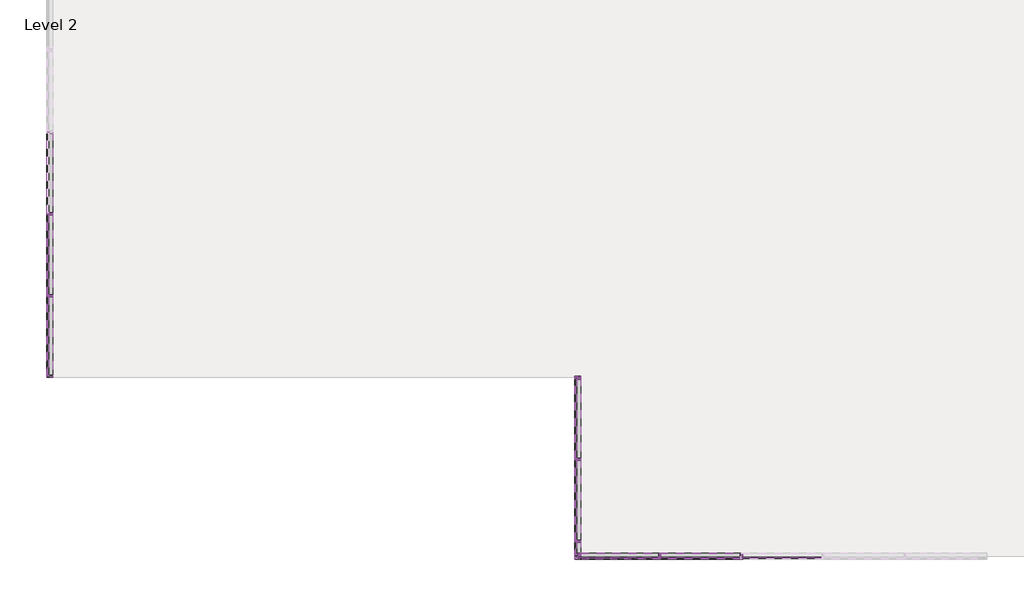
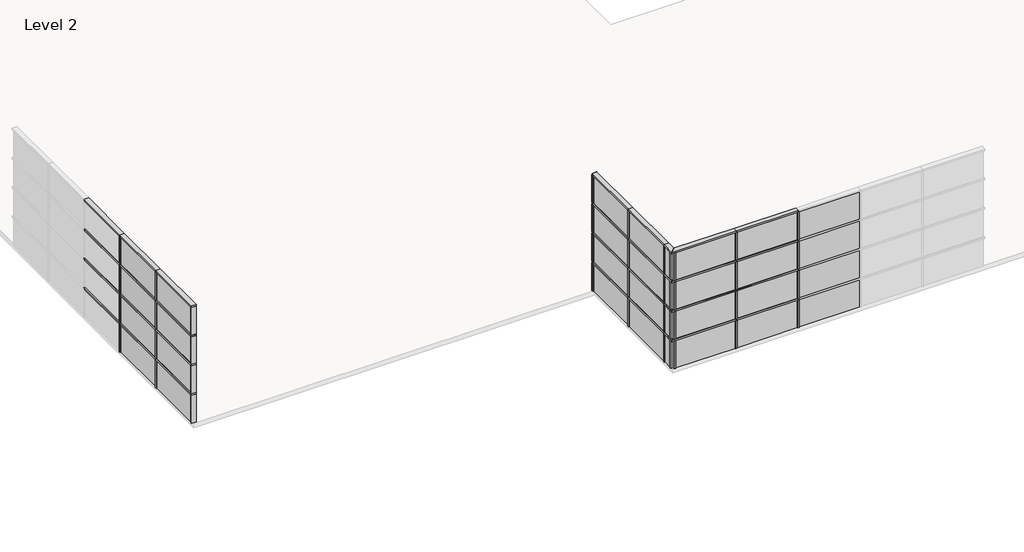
# One storey, part 1 of 6: 80 members, 32 plates.
"""IFC4 building model written with IfcOpenShell, lengths in millimetres."""

from ifc_helpers import new_model, si_unit, origin, place, context, project, spatial, transform, mapped, element, save
from components import rectangular_mullion_50_x_150mm_a053b0ca, rectangular_mullion_50_x_150mm_3a148f0f, rectangular_mullion_50_x_150mm_12a430f9, rectangular_mullion_50_x_150mm_e050193c, rectangular_mullion_50_x_150mm_cc09da6b, rectangular_mullion_50_x_150mm_947845bb, rectangular_mullion_50_x_150mm_b8ab5643, system_panel_glazed_751a585c, system_panel_glazed_08de6f5f, system_panel_glazed_9a47c754, system_panel_glazed_4177c645

model = new_model("IFC4")

# Units and contexts
model_context = context("Model", 3, world=origin())
ifc_project = project(units=[si_unit("LENGTHUNIT", "METRE", prefix="MILLI")], contexts=[model_context])

# Site, building, storey
site = spatial("IfcSite", under=ifc_project)
building = spatial("IfcBuilding", under=site)
storey = spatial("IfcBuildingStorey", under=building, Name="Level 2", Elevation=4000.0)

# Members
placement = place(None, origin())
rectangular_mullion_50_x_150mm_shape = rectangular_mullion_50_x_150mm_a053b0ca(model_context)
element("IfcMember", 1, ObjectType="Rectangular Mullion : 50 x 150mm", at=placement, inside=storey, context=model_context, shape_type="MappedRepresentation", body=[
    mapped(rectangular_mullion_50_x_150mm_shape, transform((-3587.173406, -21988.7417365, 6025.0), x_axis=(1.0, 0.0, 0.0), y_axis=(0.0, -1.0, 0.0), z_axis=(0.0, 0.0, -0.9999999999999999))),
])
element("IfcMember", 2, ObjectType="Rectangular Mullion : 50 x 150mm", at=placement, inside=storey, context=model_context, shape_type="MappedRepresentation", body=[
    mapped(rectangular_mullion_50_x_150mm_shape, transform((-3587.173406, -21988.7417365, 7025.0), x_axis=(1.0, 0.0, 0.0), y_axis=(0.0, -1.0, 0.0), z_axis=(0.0, 0.0, -1.0))),
])
element("IfcMember", 3, ObjectType="Rectangular Mullion : 50 x 150mm", at=placement, inside=storey, context=model_context, shape_type="MappedRepresentation", body=[
    mapped(rectangular_mullion_50_x_150mm_shape, transform((-1587.173406, -21988.7417365, 4025.0), x_axis=(1.0, 0.0, 0.0), y_axis=(0.0, -1.0, 0.0), z_axis=(0.0, 0.0, -1.0))),
])
element("IfcMember", 4, ObjectType="Rectangular Mullion : 50 x 150mm", at=placement, inside=storey, context=model_context, shape_type="MappedRepresentation", body=[
    mapped(rectangular_mullion_50_x_150mm_shape, transform((-1587.173406, -21988.7417365, 5025.0), x_axis=(1.0, 0.0, 0.0), y_axis=(0.0, -1.0, 0.0), z_axis=(0.0, 0.0, -0.9999999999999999))),
])
element("IfcMember", 5, ObjectType="Rectangular Mullion : 50 x 150mm", at=placement, inside=storey, context=model_context, shape_type="MappedRepresentation", body=[
    mapped(rectangular_mullion_50_x_150mm_shape, transform((-1587.173406, -21988.7417365, 6025.0), x_axis=(1.0, 0.0, 0.0), y_axis=(0.0, -1.0, 0.0), z_axis=(0.0, 0.0, -0.9999999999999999))),
])
element("IfcMember", 6, ObjectType="Rectangular Mullion : 50 x 150mm", at=placement, inside=storey, context=model_context, shape_type="MappedRepresentation", body=[
    mapped(rectangular_mullion_50_x_150mm_shape, transform((-1587.173406, -21988.7417365, 7025.0), x_axis=(1.0, 0.0, 0.0), y_axis=(0.0, -1.0, 0.0), z_axis=(0.0, 0.0, -1.0))),
])
element("IfcMember", 7, ObjectType="Rectangular Mullion : 50 x 150mm", at=placement, inside=storey, context=model_context, shape_type="MappedRepresentation", body=[
    mapped(rectangular_mullion_50_x_150mm_shape, transform((-3587.173406, -21988.7417365, 4025.0), x_axis=(1.0, 0.0, 0.0), y_axis=(0.0, -1.0, 0.0), z_axis=(0.0, 0.0, -1.0))),
])
element("IfcMember", 8, ObjectType="Rectangular Mullion : 50 x 150mm", at=placement, inside=storey, context=model_context, shape_type="MappedRepresentation", body=[
    mapped(rectangular_mullion_50_x_150mm_shape, transform((-3587.173406, -21988.7417365, 5025.0), x_axis=(1.0, 0.0, 0.0), y_axis=(0.0, -1.0, 0.0), z_axis=(0.0, 0.0, -0.9999999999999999))),
])
element("IfcMember", 9, ObjectType="Rectangular Mullion : 50 x 150mm", at=placement, inside=storey, context=model_context, shape_type="MappedRepresentation", body=[
    mapped(rectangular_mullion_50_x_150mm_shape, transform((-5587.173406, -17624.0160434, 4025.0), x_axis=(0.0, -1.0, 0.0), y_axis=(-1.0, 0.0, 0.0), z_axis=(0.0, 0.0, -1.0))),
])
element("IfcMember", 10, ObjectType="Rectangular Mullion : 50 x 150mm", at=placement, inside=storey, context=model_context, shape_type="MappedRepresentation", body=[
    mapped(rectangular_mullion_50_x_150mm_shape, transform((-5587.173406, -17624.0160434, 5025.0), x_axis=(0.0, -1.0, 0.0), y_axis=(-1.0, 0.0, 0.0), z_axis=(0.0, 0.0, -0.9999999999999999))),
])
element("IfcMember", 11, ObjectType="Rectangular Mullion : 50 x 150mm", at=placement, inside=storey, context=model_context, shape_type="MappedRepresentation", body=[
    mapped(rectangular_mullion_50_x_150mm_shape, transform((-5587.173406, -17624.0160434, 6025.0), x_axis=(0.0, -1.0, 0.0), y_axis=(-1.0, 0.0, 0.0), z_axis=(0.0, 0.0, -0.9999999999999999))),
])
element("IfcMember", 12, ObjectType="Rectangular Mullion : 50 x 150mm", at=placement, inside=storey, context=model_context, shape_type="MappedRepresentation", body=[
    mapped(rectangular_mullion_50_x_150mm_shape, transform((-5587.173406, -17624.0160434, 7025.0), x_axis=(0.0, -1.0, 0.0), y_axis=(-1.0, 0.0, 0.0), z_axis=(0.0, 0.0, -1.0))),
])
element("IfcMember", 13, ObjectType="Rectangular Mullion : 50 x 150mm", at=placement, inside=storey, context=model_context, shape_type="MappedRepresentation", body=[
    mapped(rectangular_mullion_50_x_150mm_shape, transform((-5587.173406, -19624.0160434, 4025.0), x_axis=(0.0, -1.0, 0.0), y_axis=(-1.0, 0.0, 0.0), z_axis=(0.0, 0.0, -1.0))),
])
element("IfcMember", 14, ObjectType="Rectangular Mullion : 50 x 150mm", at=placement, inside=storey, context=model_context, shape_type="MappedRepresentation", body=[
    mapped(rectangular_mullion_50_x_150mm_shape, transform((-5587.173406, -19624.0160434, 5025.0), x_axis=(0.0, -1.0, 0.0), y_axis=(-1.0, 0.0, 0.0), z_axis=(0.0, 0.0, -0.9999999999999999))),
])
element("IfcMember", 15, ObjectType="Rectangular Mullion : 50 x 150mm", at=placement, inside=storey, context=model_context, shape_type="MappedRepresentation", body=[
    mapped(rectangular_mullion_50_x_150mm_shape, transform((-5587.173406, -19624.0160434, 6025.0), x_axis=(0.0, -1.0, 0.0), y_axis=(-1.0, 0.0, 0.0), z_axis=(0.0, 0.0, -0.9999999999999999))),
])
element("IfcMember", 16, ObjectType="Rectangular Mullion : 50 x 150mm", at=placement, inside=storey, context=model_context, shape_type="MappedRepresentation", body=[
    mapped(rectangular_mullion_50_x_150mm_shape, transform((-5587.173406, -19624.0160434, 7025.0), x_axis=(0.0, -1.0, 0.0), y_axis=(-1.0, 0.0, 0.0), z_axis=(0.0, 0.0, -1.0))),
])
element("IfcMember", 17, ObjectType="Rectangular Mullion : 50 x 150mm", at=placement, inside=storey, context=model_context, shape_type="MappedRepresentation", body=[
    mapped(rectangular_mullion_50_x_150mm_shape, transform((-5587.173406, -21624.0160434, 4025.0), x_axis=(0.0, -1.0, 0.0), y_axis=(-1.0, 0.0, 0.0), z_axis=(0.0, 0.0, -1.0))),
])
element("IfcMember", 18, ObjectType="Rectangular Mullion : 50 x 150mm", at=placement, inside=storey, context=model_context, shape_type="MappedRepresentation", body=[
    mapped(rectangular_mullion_50_x_150mm_shape, transform((-5587.173406, -21624.0160434, 5025.0), x_axis=(0.0, -1.0, 0.0), y_axis=(-1.0, 0.0, 0.0), z_axis=(0.0, 0.0, -0.9999999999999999))),
])
element("IfcMember", 19, ObjectType="Rectangular Mullion : 50 x 150mm", at=placement, inside=storey, context=model_context, shape_type="MappedRepresentation", body=[
    mapped(rectangular_mullion_50_x_150mm_shape, transform((-5587.173406, -21624.0160434, 6025.0), x_axis=(0.0, -1.0, 0.0), y_axis=(-1.0, 0.0, 0.0), z_axis=(0.0, 0.0, -0.9999999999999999))),
])
element("IfcMember", 20, ObjectType="Rectangular Mullion : 50 x 150mm", at=placement, inside=storey, context=model_context, shape_type="MappedRepresentation", body=[
    mapped(rectangular_mullion_50_x_150mm_shape, transform((-5587.173406, -21624.0160434, 7025.0), x_axis=(0.0, -1.0, 0.0), y_axis=(-1.0, 0.0, 0.0), z_axis=(0.0, 0.0, -1.0))),
])
element("IfcMember", 21, ObjectType="Rectangular Mullion : 50 x 150mm", at=placement, inside=storey, context=model_context, shape_type="MappedRepresentation", body=[
    mapped(rectangular_mullion_50_x_150mm_shape, transform((-18496.7339025, -13624.0160434, 4025.0), x_axis=(0.0, -1.0, 0.0), y_axis=(-1.0, 0.0, 0.0), z_axis=(0.0, 0.0, -1.0))),
])
element("IfcMember", 22, ObjectType="Rectangular Mullion : 50 x 150mm", at=placement, inside=storey, context=model_context, shape_type="MappedRepresentation", body=[
    mapped(rectangular_mullion_50_x_150mm_shape, transform((-18496.7339025, -13624.0160434, 5025.0), x_axis=(0.0, -1.0, 0.0), y_axis=(-1.0, 0.0, 0.0), z_axis=(0.0, 0.0, -0.9999999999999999))),
])
element("IfcMember", 23, ObjectType="Rectangular Mullion : 50 x 150mm", at=placement, inside=storey, context=model_context, shape_type="MappedRepresentation", body=[
    mapped(rectangular_mullion_50_x_150mm_shape, transform((-18496.7339025, -13624.0160434, 6025.0), x_axis=(0.0, -1.0, 0.0), y_axis=(-1.0, 0.0, 0.0), z_axis=(0.0, 0.0, -0.9999999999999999))),
])
element("IfcMember", 24, ObjectType="Rectangular Mullion : 50 x 150mm", at=placement, inside=storey, context=model_context, shape_type="MappedRepresentation", body=[
    mapped(rectangular_mullion_50_x_150mm_shape, transform((-18496.7339025, -13624.0160434, 7025.0), x_axis=(0.0, -1.0, 0.0), y_axis=(-1.0, 0.0, 0.0), z_axis=(0.0, 0.0, -1.0))),
])
element("IfcMember", 25, ObjectType="Rectangular Mullion : 50 x 150mm", at=placement, inside=storey, context=model_context, shape_type="MappedRepresentation", body=[
    mapped(rectangular_mullion_50_x_150mm_shape, transform((-18496.7339025, -15624.0160434, 4025.0), x_axis=(0.0, -1.0, 0.0), y_axis=(-1.0, 0.0, 0.0), z_axis=(0.0, 0.0, -1.0))),
])
element("IfcMember", 26, ObjectType="Rectangular Mullion : 50 x 150mm", at=placement, inside=storey, context=model_context, shape_type="MappedRepresentation", body=[
    mapped(rectangular_mullion_50_x_150mm_shape, transform((-18496.7339025, -15624.0160434, 5025.0), x_axis=(0.0, -1.0, 0.0), y_axis=(-1.0, 0.0, 0.0), z_axis=(0.0, 0.0, -0.9999999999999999))),
])
element("IfcMember", 27, ObjectType="Rectangular Mullion : 50 x 150mm", at=placement, inside=storey, context=model_context, shape_type="MappedRepresentation", body=[
    mapped(rectangular_mullion_50_x_150mm_shape, transform((-18496.7339025, -15624.0160434, 6025.0), x_axis=(0.0, -1.0, 0.0), y_axis=(-1.0, 0.0, 0.0), z_axis=(0.0, 0.0, -0.9999999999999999))),
])
element("IfcMember", 28, ObjectType="Rectangular Mullion : 50 x 150mm", at=placement, inside=storey, context=model_context, shape_type="MappedRepresentation", body=[
    mapped(rectangular_mullion_50_x_150mm_shape, transform((-18496.7339025, -15624.0160434, 7025.0), x_axis=(0.0, -1.0, 0.0), y_axis=(-1.0, 0.0, 0.0), z_axis=(0.0, 0.0, -1.0))),
])
rectangular_mullion_50_x_150mm_2_shape = rectangular_mullion_50_x_150mm_3a148f0f(model_context)
element("IfcMember", 29, ObjectType="Rectangular Mullion : 50 x 150mm", at=placement, inside=storey, context=model_context, shape_type="MappedRepresentation", body=[
    mapped(rectangular_mullion_50_x_150mm_2_shape, transform((-1587.173406, -21988.7417365, 5000.0), x_axis=(0.0, 0.0, 1.0), y_axis=(0.0, -1.0, 0.0), z_axis=(1.0, 0.0, 0.0))),
])
element("IfcMember", 30, ObjectType="Rectangular Mullion : 50 x 150mm", at=placement, inside=storey, context=model_context, shape_type="MappedRepresentation", body=[
    mapped(rectangular_mullion_50_x_150mm_2_shape, transform((-1587.173406, -21988.7417365, 6000.0), x_axis=(0.0, 0.0, 1.0), y_axis=(0.0, -1.0, 0.0), z_axis=(1.0, 0.0, 0.0))),
])
element("IfcMember", 31, ObjectType="Rectangular Mullion : 50 x 150mm", at=placement, inside=storey, context=model_context, shape_type="MappedRepresentation", body=[
    mapped(rectangular_mullion_50_x_150mm_2_shape, transform((-1587.173406, -21988.7417365, 7000.0), x_axis=(0.0, 0.0, 1.0), y_axis=(0.0, -1.0, 0.0), z_axis=(1.0, 0.0, 0.0))),
])
element("IfcMember", 32, ObjectType="Rectangular Mullion : 50 x 150mm", at=placement, inside=storey, context=model_context, shape_type="MappedRepresentation", body=[
    mapped(rectangular_mullion_50_x_150mm_2_shape, transform((-1587.173406, -21988.7417365, 8000.0), x_axis=(0.0, 0.0, 1.0), y_axis=(0.0, -1.0, 0.0), z_axis=(1.0, 0.0, 0.0))),
])
element("IfcMember", 33, ObjectType="Rectangular Mullion : 50 x 150mm", at=placement, inside=storey, context=model_context, shape_type="MappedRepresentation", body=[
    mapped(rectangular_mullion_50_x_150mm_2_shape, transform((-5587.173406, -19624.0160434, 5000.0), x_axis=(0.0, 0.0, 1.0), y_axis=(-1.0, 0.0, 0.0), z_axis=(0.0, -1.0, 0.0))),
])
element("IfcMember", 34, ObjectType="Rectangular Mullion : 50 x 150mm", at=placement, inside=storey, context=model_context, shape_type="MappedRepresentation", body=[
    mapped(rectangular_mullion_50_x_150mm_2_shape, transform((-5587.173406, -21624.0160434, 5000.0), x_axis=(0.0, 0.0, 1.0), y_axis=(-1.0, 0.0, 0.0), z_axis=(0.0, -1.0, 0.0))),
])
element("IfcMember", 35, ObjectType="Rectangular Mullion : 50 x 150mm", at=placement, inside=storey, context=model_context, shape_type="MappedRepresentation", body=[
    mapped(rectangular_mullion_50_x_150mm_2_shape, transform((-5587.173406, -19624.0160434, 6000.0), x_axis=(0.0, 0.0, 1.0), y_axis=(-1.0, 0.0, 0.0), z_axis=(0.0, -1.0, 0.0))),
])
element("IfcMember", 36, ObjectType="Rectangular Mullion : 50 x 150mm", at=placement, inside=storey, context=model_context, shape_type="MappedRepresentation", body=[
    mapped(rectangular_mullion_50_x_150mm_2_shape, transform((-5587.173406, -21624.0160434, 6000.0), x_axis=(0.0, 0.0, 1.0), y_axis=(-1.0, 0.0, 0.0), z_axis=(0.0, -1.0, 0.0))),
])
element("IfcMember", 37, ObjectType="Rectangular Mullion : 50 x 150mm", at=placement, inside=storey, context=model_context, shape_type="MappedRepresentation", body=[
    mapped(rectangular_mullion_50_x_150mm_2_shape, transform((-5587.173406, -19624.0160434, 7000.0), x_axis=(0.0, 0.0, 1.0), y_axis=(-1.0, 0.0, 0.0), z_axis=(0.0, -1.0, 0.0))),
])
element("IfcMember", 38, ObjectType="Rectangular Mullion : 50 x 150mm", at=placement, inside=storey, context=model_context, shape_type="MappedRepresentation", body=[
    mapped(rectangular_mullion_50_x_150mm_2_shape, transform((-5587.173406, -21624.0160434, 7000.0), x_axis=(0.0, 0.0, 1.0), y_axis=(-1.0, 0.0, 0.0), z_axis=(0.0, -1.0, 0.0))),
])
element("IfcMember", 39, ObjectType="Rectangular Mullion : 50 x 150mm", at=placement, inside=storey, context=model_context, shape_type="MappedRepresentation", body=[
    mapped(rectangular_mullion_50_x_150mm_2_shape, transform((-5587.173406, -19624.0160434, 8000.0), x_axis=(0.0, 0.0, 1.0), y_axis=(-1.0, 0.0, 0.0), z_axis=(0.0, -1.0, 0.0))),
])
element("IfcMember", 40, ObjectType="Rectangular Mullion : 50 x 150mm", at=placement, inside=storey, context=model_context, shape_type="MappedRepresentation", body=[
    mapped(rectangular_mullion_50_x_150mm_2_shape, transform((-5587.173406, -21624.0160434, 8000.0), x_axis=(0.0, 0.0, 1.0), y_axis=(-1.0, 0.0, 0.0), z_axis=(0.0, -1.0, 0.0))),
])
element("IfcMember", 41, ObjectType="Rectangular Mullion : 50 x 150mm", at=placement, inside=storey, context=model_context, shape_type="MappedRepresentation", body=[
    mapped(rectangular_mullion_50_x_150mm_2_shape, transform((-18496.7339025, -13624.0160434, 5000.0), x_axis=(0.0, 0.0, 1.0), y_axis=(-1.0, 0.0, 0.0), z_axis=(0.0, -1.0, 0.0))),
])
element("IfcMember", 42, ObjectType="Rectangular Mullion : 50 x 150mm", at=placement, inside=storey, context=model_context, shape_type="MappedRepresentation", body=[
    mapped(rectangular_mullion_50_x_150mm_2_shape, transform((-18496.7339025, -15624.0160434, 5000.0), x_axis=(0.0, 0.0, 1.0), y_axis=(-1.0, 0.0, 0.0), z_axis=(0.0, -1.0, 0.0))),
])
element("IfcMember", 43, ObjectType="Rectangular Mullion : 50 x 150mm", at=placement, inside=storey, context=model_context, shape_type="MappedRepresentation", body=[
    mapped(rectangular_mullion_50_x_150mm_2_shape, transform((-18496.7339025, -13624.0160434, 6000.0), x_axis=(0.0, 0.0, 1.0), y_axis=(-1.0, 0.0, 0.0), z_axis=(0.0, -1.0, 0.0))),
])
element("IfcMember", 44, ObjectType="Rectangular Mullion : 50 x 150mm", at=placement, inside=storey, context=model_context, shape_type="MappedRepresentation", body=[
    mapped(rectangular_mullion_50_x_150mm_2_shape, transform((-18496.7339025, -15624.0160434, 6000.0), x_axis=(0.0, 0.0, 1.0), y_axis=(-1.0, 0.0, 0.0), z_axis=(0.0, -1.0, 0.0))),
])
element("IfcMember", 45, ObjectType="Rectangular Mullion : 50 x 150mm", at=placement, inside=storey, context=model_context, shape_type="MappedRepresentation", body=[
    mapped(rectangular_mullion_50_x_150mm_2_shape, transform((-18496.7339025, -13624.0160434, 7000.0), x_axis=(0.0, 0.0, 1.0), y_axis=(-1.0, 0.0, 0.0), z_axis=(0.0, -1.0, 0.0))),
])
element("IfcMember", 46, ObjectType="Rectangular Mullion : 50 x 150mm", at=placement, inside=storey, context=model_context, shape_type="MappedRepresentation", body=[
    mapped(rectangular_mullion_50_x_150mm_2_shape, transform((-18496.7339025, -15624.0160434, 7000.0), x_axis=(0.0, 0.0, 1.0), y_axis=(-1.0, 0.0, 0.0), z_axis=(0.0, -1.0, 0.0))),
])
element("IfcMember", 47, ObjectType="Rectangular Mullion : 50 x 150mm", at=placement, inside=storey, context=model_context, shape_type="MappedRepresentation", body=[
    mapped(rectangular_mullion_50_x_150mm_2_shape, transform((-18496.7339025, -13624.0160434, 8000.0), x_axis=(0.0, 0.0, 1.0), y_axis=(-1.0, 0.0, 0.0), z_axis=(0.0, -1.0, 0.0))),
])
element("IfcMember", 48, ObjectType="Rectangular Mullion : 50 x 150mm", at=placement, inside=storey, context=model_context, shape_type="MappedRepresentation", body=[
    mapped(rectangular_mullion_50_x_150mm_2_shape, transform((-18496.7339025, -15624.0160434, 8000.0), x_axis=(0.0, 0.0, 1.0), y_axis=(-1.0, 0.0, 0.0), z_axis=(0.0, -1.0, 0.0))),
])
rectangular_mullion_50_x_150mm_3_shape = rectangular_mullion_50_x_150mm_12a430f9(model_context)
element("IfcMember", 49, ObjectType="Rectangular Mullion : 50 x 150mm", at=placement, inside=storey, context=model_context, shape_type="MappedRepresentation", body=[
    mapped(rectangular_mullion_50_x_150mm_3_shape, transform((-5587.173406, -21988.7417365, 4975.0), x_axis=(-1.0, 0.0, 0.0), y_axis=(0.0, -1.0, 0.0), z_axis=(0.0, 0.0, 1.0))),
])
element("IfcMember", 50, ObjectType="Rectangular Mullion : 50 x 150mm", at=placement, inside=storey, context=model_context, shape_type="MappedRepresentation", body=[
    mapped(rectangular_mullion_50_x_150mm_3_shape, transform((-5587.173406, -21988.7417365, 5975.0), x_axis=(-1.0, 0.0, 0.0), y_axis=(0.0, -1.0, 0.0), z_axis=(0.0, 0.0, 0.9999999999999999))),
])
element("IfcMember", 51, ObjectType="Rectangular Mullion : 50 x 150mm", at=placement, inside=storey, context=model_context, shape_type="MappedRepresentation", body=[
    mapped(rectangular_mullion_50_x_150mm_3_shape, transform((-5587.173406, -21988.7417365, 6975.0), x_axis=(-1.0, 0.0, 0.0), y_axis=(0.0, -1.0, 0.0), z_axis=(0.0, 0.0, 0.9999999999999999))),
])
element("IfcMember", 52, ObjectType="Rectangular Mullion : 50 x 150mm", at=placement, inside=storey, context=model_context, shape_type="MappedRepresentation", body=[
    mapped(rectangular_mullion_50_x_150mm_3_shape, transform((-5587.173406, -21988.7417365, 7975.0), x_axis=(-1.0, 0.0, 0.0), y_axis=(0.0, -1.0, 0.0), z_axis=(0.0, 0.0, 1.0))),
])
element("IfcMember", 53, ObjectType="Rectangular Mullion : 50 x 150mm", at=placement, inside=storey, context=model_context, shape_type="MappedRepresentation", body=[
    mapped(rectangular_mullion_50_x_150mm_3_shape, transform((-5587.173406, -17621.30803, 4975.0), x_axis=(0.0, 1.0, 0.0), y_axis=(-1.0, 0.0, 0.0), z_axis=(0.0, 0.0, 1.0))),
])
element("IfcMember", 54, ObjectType="Rectangular Mullion : 50 x 150mm", at=placement, inside=storey, context=model_context, shape_type="MappedRepresentation", body=[
    mapped(rectangular_mullion_50_x_150mm_3_shape, transform((-5587.173406, -17621.30803, 5975.0), x_axis=(0.0, 1.0, 0.0), y_axis=(-1.0, 0.0, 0.0), z_axis=(0.0, 0.0, 0.9999999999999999))),
])
element("IfcMember", 55, ObjectType="Rectangular Mullion : 50 x 150mm", at=placement, inside=storey, context=model_context, shape_type="MappedRepresentation", body=[
    mapped(rectangular_mullion_50_x_150mm_3_shape, transform((-5587.173406, -17621.30803, 6975.0), x_axis=(0.0, 1.0, 0.0), y_axis=(-1.0, 0.0, 0.0), z_axis=(0.0, 0.0, 0.9999999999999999))),
])
element("IfcMember", 56, ObjectType="Rectangular Mullion : 50 x 150mm", at=placement, inside=storey, context=model_context, shape_type="MappedRepresentation", body=[
    mapped(rectangular_mullion_50_x_150mm_3_shape, transform((-5587.173406, -17621.30803, 7975.0), x_axis=(0.0, 1.0, 0.0), y_axis=(-1.0, 0.0, 0.0), z_axis=(0.0, 0.0, 1.0))),
])
element("IfcMember", 57, ObjectType="Rectangular Mullion : 50 x 150mm", at=placement, inside=storey, context=model_context, shape_type="MappedRepresentation", body=[
    mapped(rectangular_mullion_50_x_150mm_3_shape, transform((-5587.173406, -21988.7417365, 4025.0), x_axis=(0.0, -1.0, 0.0), y_axis=(-1.0, 0.0, 0.0), z_axis=(0.0, 0.0, -1.0))),
])
element("IfcMember", 58, ObjectType="Rectangular Mullion : 50 x 150mm", at=placement, inside=storey, context=model_context, shape_type="MappedRepresentation", body=[
    mapped(rectangular_mullion_50_x_150mm_3_shape, transform((-5587.173406, -21988.7417365, 5025.0), x_axis=(0.0, -1.0, 0.0), y_axis=(-1.0, 0.0, 0.0), z_axis=(0.0, 0.0, -0.9999999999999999))),
])
element("IfcMember", 59, ObjectType="Rectangular Mullion : 50 x 150mm", at=placement, inside=storey, context=model_context, shape_type="MappedRepresentation", body=[
    mapped(rectangular_mullion_50_x_150mm_3_shape, transform((-5587.173406, -21988.7417365, 6025.0), x_axis=(0.0, -1.0, 0.0), y_axis=(-1.0, 0.0, 0.0), z_axis=(0.0, 0.0, -0.9999999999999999))),
])
element("IfcMember", 60, ObjectType="Rectangular Mullion : 50 x 150mm", at=placement, inside=storey, context=model_context, shape_type="MappedRepresentation", body=[
    mapped(rectangular_mullion_50_x_150mm_3_shape, transform((-5587.173406, -21988.7417365, 7025.0), x_axis=(0.0, -1.0, 0.0), y_axis=(-1.0, 0.0, 0.0), z_axis=(0.0, 0.0, -1.0))),
])
element("IfcMember", 61, ObjectType="Rectangular Mullion : 50 x 150mm", at=placement, inside=storey, context=model_context, shape_type="MappedRepresentation", body=[
    mapped(rectangular_mullion_50_x_150mm_3_shape, transform((-18496.7339025, -17621.30803, 4025.0), x_axis=(0.0, -1.0, 0.0), y_axis=(-1.0, 0.0, 0.0), z_axis=(0.0, 0.0, -1.0))),
])
element("IfcMember", 62, ObjectType="Rectangular Mullion : 50 x 150mm", at=placement, inside=storey, context=model_context, shape_type="MappedRepresentation", body=[
    mapped(rectangular_mullion_50_x_150mm_3_shape, transform((-18496.7339025, -17621.30803, 5025.0), x_axis=(0.0, -1.0, 0.0), y_axis=(-1.0, 0.0, 0.0), z_axis=(0.0, 0.0, -0.9999999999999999))),
])
element("IfcMember", 63, ObjectType="Rectangular Mullion : 50 x 150mm", at=placement, inside=storey, context=model_context, shape_type="MappedRepresentation", body=[
    mapped(rectangular_mullion_50_x_150mm_3_shape, transform((-18496.7339025, -17621.30803, 6025.0), x_axis=(0.0, -1.0, 0.0), y_axis=(-1.0, 0.0, 0.0), z_axis=(0.0, 0.0, -0.9999999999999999))),
])
element("IfcMember", 64, ObjectType="Rectangular Mullion : 50 x 150mm", at=placement, inside=storey, context=model_context, shape_type="MappedRepresentation", body=[
    mapped(rectangular_mullion_50_x_150mm_3_shape, transform((-18496.7339025, -17621.30803, 7025.0), x_axis=(0.0, -1.0, 0.0), y_axis=(-1.0, 0.0, 0.0), z_axis=(0.0, 0.0, -1.0))),
])
rectangular_mullion_50_x_150mm_4_shape = rectangular_mullion_50_x_150mm_e050193c(model_context)
element("IfcMember", 65, ObjectType="Rectangular Mullion : 50 x 150mm", at=placement, inside=storey, context=model_context, shape_type="MappedRepresentation", body=[
    mapped(rectangular_mullion_50_x_150mm_4_shape, transform((-5587.173406, -17624.0160434, 5000.0), x_axis=(0.0, 0.0, 1.0), y_axis=(-1.0, 0.0, 0.0), z_axis=(0.0, -1.0, 0.0))),
])
element("IfcMember", 66, ObjectType="Rectangular Mullion : 50 x 150mm", at=placement, inside=storey, context=model_context, shape_type="MappedRepresentation", body=[
    mapped(rectangular_mullion_50_x_150mm_4_shape, transform((-5587.173406, -17624.0160434, 6000.0), x_axis=(0.0, 0.0, 1.0), y_axis=(-1.0, 0.0, 0.0), z_axis=(0.0, -1.0, 0.0))),
])
element("IfcMember", 67, ObjectType="Rectangular Mullion : 50 x 150mm", at=placement, inside=storey, context=model_context, shape_type="MappedRepresentation", body=[
    mapped(rectangular_mullion_50_x_150mm_4_shape, transform((-5587.173406, -17624.0160434, 7000.0), x_axis=(0.0, 0.0, 1.0), y_axis=(-1.0, 0.0, 0.0), z_axis=(0.0, -1.0, 0.0))),
])
element("IfcMember", 68, ObjectType="Rectangular Mullion : 50 x 150mm", at=placement, inside=storey, context=model_context, shape_type="MappedRepresentation", body=[
    mapped(rectangular_mullion_50_x_150mm_4_shape, transform((-5587.173406, -17624.0160434, 8000.0), x_axis=(0.0, 0.0, 1.0), y_axis=(-1.0, 0.0, 0.0), z_axis=(0.0, -1.0, 0.0))),
])
rectangular_mullion_50_x_150mm_5_shape = rectangular_mullion_50_x_150mm_cc09da6b(model_context)
element("IfcMember", 69, ObjectType="Rectangular Mullion : 50 x 150mm", at=placement, inside=storey, context=model_context, shape_type="MappedRepresentation", body=[
    mapped(rectangular_mullion_50_x_150mm_5_shape, transform((-5587.173406, -21988.7417365, 5000.0), x_axis=(0.0, 0.0, 1.0), y_axis=(-1.0, 0.0, 0.0), z_axis=(0.0, -1.0, 0.0))),
])
element("IfcMember", 70, ObjectType="Rectangular Mullion : 50 x 150mm", at=placement, inside=storey, context=model_context, shape_type="MappedRepresentation", body=[
    mapped(rectangular_mullion_50_x_150mm_5_shape, transform((-5587.173406, -21988.7417365, 6000.0), x_axis=(0.0, 0.0, 1.0), y_axis=(-1.0, 0.0, 0.0), z_axis=(0.0, -1.0, 0.0))),
])
element("IfcMember", 71, ObjectType="Rectangular Mullion : 50 x 150mm", at=placement, inside=storey, context=model_context, shape_type="MappedRepresentation", body=[
    mapped(rectangular_mullion_50_x_150mm_5_shape, transform((-5587.173406, -21988.7417365, 7000.0), x_axis=(0.0, 0.0, 1.0), y_axis=(-1.0, 0.0, 0.0), z_axis=(0.0, -1.0, 0.0))),
])
element("IfcMember", 72, ObjectType="Rectangular Mullion : 50 x 150mm", at=placement, inside=storey, context=model_context, shape_type="MappedRepresentation", body=[
    mapped(rectangular_mullion_50_x_150mm_5_shape, transform((-5587.173406, -21988.7417365, 8000.0), x_axis=(0.0, 0.0, 1.0), y_axis=(-1.0, 0.0, 0.0), z_axis=(0.0, -1.0, 0.0))),
])
rectangular_mullion_50_x_150mm_6_shape = rectangular_mullion_50_x_150mm_947845bb(model_context)
element("IfcMember", 73, ObjectType="Rectangular Mullion : 50 x 150mm", at=placement, inside=storey, context=model_context, shape_type="MappedRepresentation", body=[
    mapped(rectangular_mullion_50_x_150mm_6_shape, transform((-3587.173406, -21988.7417365, 5000.0), x_axis=(0.0, 0.0, 1.0), y_axis=(0.0, -1.0, 0.0), z_axis=(1.0, 0.0, 0.0))),
])
element("IfcMember", 74, ObjectType="Rectangular Mullion : 50 x 150mm", at=placement, inside=storey, context=model_context, shape_type="MappedRepresentation", body=[
    mapped(rectangular_mullion_50_x_150mm_6_shape, transform((-3587.173406, -21988.7417365, 6000.0), x_axis=(0.0, 0.0, 1.0), y_axis=(0.0, -1.0, 0.0), z_axis=(1.0, 0.0, 0.0))),
])
element("IfcMember", 75, ObjectType="Rectangular Mullion : 50 x 150mm", at=placement, inside=storey, context=model_context, shape_type="MappedRepresentation", body=[
    mapped(rectangular_mullion_50_x_150mm_6_shape, transform((-3587.173406, -21988.7417365, 7000.0), x_axis=(0.0, 0.0, 1.0), y_axis=(0.0, -1.0, 0.0), z_axis=(1.0, 0.0, 0.0))),
])
element("IfcMember", 76, ObjectType="Rectangular Mullion : 50 x 150mm", at=placement, inside=storey, context=model_context, shape_type="MappedRepresentation", body=[
    mapped(rectangular_mullion_50_x_150mm_6_shape, transform((-3587.173406, -21988.7417365, 8000.0), x_axis=(0.0, 0.0, 1.0), y_axis=(0.0, -1.0, 0.0), z_axis=(1.0, 0.0, 0.0))),
])
rectangular_mullion_50_x_150mm_7_shape = rectangular_mullion_50_x_150mm_b8ab5643(model_context)
element("IfcMember", 77, ObjectType="Rectangular Mullion : 50 x 150mm", at=placement, inside=storey, context=model_context, shape_type="MappedRepresentation", body=[
    mapped(rectangular_mullion_50_x_150mm_7_shape, transform((-18496.7339025, -17621.30803, 5000.0), x_axis=(0.0, 0.0, 1.0), y_axis=(-1.0, 0.0, 0.0), z_axis=(0.0, -1.0, 0.0))),
])
element("IfcMember", 78, ObjectType="Rectangular Mullion : 50 x 150mm", at=placement, inside=storey, context=model_context, shape_type="MappedRepresentation", body=[
    mapped(rectangular_mullion_50_x_150mm_7_shape, transform((-18496.7339025, -17621.30803, 6000.0), x_axis=(0.0, 0.0, 1.0), y_axis=(-1.0, 0.0, 0.0), z_axis=(0.0, -1.0, 0.0))),
])
element("IfcMember", 79, ObjectType="Rectangular Mullion : 50 x 150mm", at=placement, inside=storey, context=model_context, shape_type="MappedRepresentation", body=[
    mapped(rectangular_mullion_50_x_150mm_7_shape, transform((-18496.7339025, -17621.30803, 7000.0), x_axis=(0.0, 0.0, 1.0), y_axis=(-1.0, 0.0, 0.0), z_axis=(0.0, -1.0, 0.0))),
])
element("IfcMember", 80, ObjectType="Rectangular Mullion : 50 x 150mm", at=placement, inside=storey, context=model_context, shape_type="MappedRepresentation", body=[
    mapped(rectangular_mullion_50_x_150mm_7_shape, transform((-18496.7339025, -17621.30803, 8000.0), x_axis=(0.0, 0.0, 1.0), y_axis=(-1.0, 0.0, 0.0), z_axis=(0.0, -1.0, 0.0))),
])

# Plates
system_panel_glazed_shape = system_panel_glazed_751a585c(model_context)
element("IfcPlate", 81, ObjectType="System Panel : Glazed", at=placement, inside=storey, context=model_context, shape_type="MappedRepresentation", body=[
    mapped(system_panel_glazed_shape, transform((-5537.173406, -21988.7417365, 4500.0), x_axis=(0.0, 0.0, 1.0), y_axis=(0.0, -1.0, 0.0), z_axis=(1.0, 0.0, 0.0))),
])
element("IfcPlate", 82, ObjectType="System Panel : Glazed", at=placement, inside=storey, context=model_context, shape_type="MappedRepresentation", body=[
    mapped(system_panel_glazed_shape, transform((-5537.173406, -21988.7417365, 5500.0), x_axis=(0.0, 0.0, 1.0), y_axis=(0.0, -1.0, 0.0), z_axis=(1.0, 0.0, 0.0))),
])
element("IfcPlate", 83, ObjectType="System Panel : Glazed", at=placement, inside=storey, context=model_context, shape_type="MappedRepresentation", body=[
    mapped(system_panel_glazed_shape, transform((-5537.173406, -21988.7417365, 6500.0), x_axis=(0.0, 0.0, 1.0), y_axis=(0.0, -1.0, 0.0), z_axis=(1.0, 0.0, 0.0))),
])
element("IfcPlate", 84, ObjectType="System Panel : Glazed", at=placement, inside=storey, context=model_context, shape_type="MappedRepresentation", body=[
    mapped(system_panel_glazed_shape, transform((-5537.173406, -21988.7417365, 7500.0), x_axis=(0.0, 0.0, 1.0), y_axis=(0.0, -1.0, 0.0), z_axis=(1.0, 0.0, 0.0))),
])
system_panel_glazed_2_shape = system_panel_glazed_08de6f5f(model_context)
element("IfcPlate", 85, ObjectType="System Panel : Glazed", at=placement, inside=storey, context=model_context, shape_type="MappedRepresentation", body=[
    mapped(system_panel_glazed_2_shape, transform((-5587.173406, -17649.0160434, 4500.0), x_axis=(0.0, 0.0, 1.0), y_axis=(-1.0, 0.0, 0.0), z_axis=(0.0, -1.0, 0.0))),
])
element("IfcPlate", 86, ObjectType="System Panel : Glazed", at=placement, inside=storey, context=model_context, shape_type="MappedRepresentation", body=[
    mapped(system_panel_glazed_2_shape, transform((-5587.173406, -17649.0160434, 5500.0), x_axis=(0.0, 0.0, 1.0), y_axis=(-1.0, 0.0, 0.0), z_axis=(0.0, -1.0, 0.0))),
])
element("IfcPlate", 87, ObjectType="System Panel : Glazed", at=placement, inside=storey, context=model_context, shape_type="MappedRepresentation", body=[
    mapped(system_panel_glazed_2_shape, transform((-5587.173406, -17649.0160434, 6500.0), x_axis=(0.0, 0.0, 1.0), y_axis=(-1.0, 0.0, 0.0), z_axis=(0.0, -1.0, 0.0))),
])
element("IfcPlate", 88, ObjectType="System Panel : Glazed", at=placement, inside=storey, context=model_context, shape_type="MappedRepresentation", body=[
    mapped(system_panel_glazed_2_shape, transform((-5587.173406, -17649.0160434, 7500.0), x_axis=(0.0, 0.0, 1.0), y_axis=(-1.0, 0.0, 0.0), z_axis=(0.0, -1.0, 0.0))),
])
element("IfcPlate", 89, ObjectType="System Panel : Glazed", at=placement, inside=storey, context=model_context, shape_type="MappedRepresentation", body=[
    mapped(system_panel_glazed_2_shape, transform((-5587.173406, -19649.0160434, 4500.0), x_axis=(0.0, 0.0, 1.0), y_axis=(-1.0, 0.0, 0.0), z_axis=(0.0, -1.0, 0.0))),
])
element("IfcPlate", 90, ObjectType="System Panel : Glazed", at=placement, inside=storey, context=model_context, shape_type="MappedRepresentation", body=[
    mapped(system_panel_glazed_2_shape, transform((-5587.173406, -19649.0160434, 5500.0), x_axis=(0.0, 0.0, 1.0), y_axis=(-1.0, 0.0, 0.0), z_axis=(0.0, -1.0, 0.0))),
])
element("IfcPlate", 91, ObjectType="System Panel : Glazed", at=placement, inside=storey, context=model_context, shape_type="MappedRepresentation", body=[
    mapped(system_panel_glazed_2_shape, transform((-5587.173406, -19649.0160434, 6500.0), x_axis=(0.0, 0.0, 1.0), y_axis=(-1.0, 0.0, 0.0), z_axis=(0.0, -1.0, 0.0))),
])
element("IfcPlate", 92, ObjectType="System Panel : Glazed", at=placement, inside=storey, context=model_context, shape_type="MappedRepresentation", body=[
    mapped(system_panel_glazed_2_shape, transform((-5587.173406, -19649.0160434, 7500.0), x_axis=(0.0, 0.0, 1.0), y_axis=(-1.0, 0.0, 0.0), z_axis=(0.0, -1.0, 0.0))),
])
element("IfcPlate", 93, ObjectType="System Panel : Glazed", at=placement, inside=storey, context=model_context, shape_type="MappedRepresentation", body=[
    mapped(system_panel_glazed_2_shape, transform((-3562.173406, -21988.7417365, 4500.0), x_axis=(0.0, 0.0, 1.0), y_axis=(0.0, -1.0, 0.0), z_axis=(1.0, 0.0, 0.0))),
])
element("IfcPlate", 94, ObjectType="System Panel : Glazed", at=placement, inside=storey, context=model_context, shape_type="MappedRepresentation", body=[
    mapped(system_panel_glazed_2_shape, transform((-3562.173406, -21988.7417365, 5500.0), x_axis=(0.0, 0.0, 1.0), y_axis=(0.0, -1.0, 0.0), z_axis=(1.0, 0.0, 0.0))),
])
element("IfcPlate", 95, ObjectType="System Panel : Glazed", at=placement, inside=storey, context=model_context, shape_type="MappedRepresentation", body=[
    mapped(system_panel_glazed_2_shape, transform((-3562.173406, -21988.7417365, 6500.0), x_axis=(0.0, 0.0, 1.0), y_axis=(0.0, -1.0, 0.0), z_axis=(1.0, 0.0, 0.0))),
])
element("IfcPlate", 96, ObjectType="System Panel : Glazed", at=placement, inside=storey, context=model_context, shape_type="MappedRepresentation", body=[
    mapped(system_panel_glazed_2_shape, transform((-3562.173406, -21988.7417365, 7500.0), x_axis=(0.0, 0.0, 1.0), y_axis=(0.0, -1.0, 0.0), z_axis=(1.0, 0.0, 0.0))),
])
element("IfcPlate", 97, ObjectType="System Panel : Glazed", at=placement, inside=storey, context=model_context, shape_type="MappedRepresentation", body=[
    mapped(system_panel_glazed_2_shape, transform((-1562.173406, -21988.7417365, 4500.0), x_axis=(0.0, 0.0, 1.0), y_axis=(0.0, -1.0, 0.0), z_axis=(1.0, 0.0, 0.0))),
])
element("IfcPlate", 98, ObjectType="System Panel : Glazed", at=placement, inside=storey, context=model_context, shape_type="MappedRepresentation", body=[
    mapped(system_panel_glazed_2_shape, transform((-1562.173406, -21988.7417365, 5500.0), x_axis=(0.0, 0.0, 1.0), y_axis=(0.0, -1.0, 0.0), z_axis=(1.0, 0.0, 0.0))),
])
element("IfcPlate", 99, ObjectType="System Panel : Glazed", at=placement, inside=storey, context=model_context, shape_type="MappedRepresentation", body=[
    mapped(system_panel_glazed_2_shape, transform((-1562.173406, -21988.7417365, 6500.0), x_axis=(0.0, 0.0, 1.0), y_axis=(0.0, -1.0, 0.0), z_axis=(1.0, 0.0, 0.0))),
])
element("IfcPlate", 100, ObjectType="System Panel : Glazed", at=placement, inside=storey, context=model_context, shape_type="MappedRepresentation", body=[
    mapped(system_panel_glazed_2_shape, transform((-1562.173406, -21988.7417365, 7500.0), x_axis=(0.0, 0.0, 1.0), y_axis=(0.0, -1.0, 0.0), z_axis=(1.0, 0.0, 0.0))),
])
element("IfcPlate", 101, ObjectType="System Panel : Glazed", at=placement, inside=storey, context=model_context, shape_type="MappedRepresentation", body=[
    mapped(system_panel_glazed_2_shape, transform((-18496.7339025, -13649.0160434, 4500.0), x_axis=(0.0, 0.0, 1.0), y_axis=(-1.0, 0.0, 0.0), z_axis=(0.0, -1.0, 0.0))),
])
element("IfcPlate", 102, ObjectType="System Panel : Glazed", at=placement, inside=storey, context=model_context, shape_type="MappedRepresentation", body=[
    mapped(system_panel_glazed_2_shape, transform((-18496.7339025, -13649.0160434, 5500.0), x_axis=(0.0, 0.0, 1.0), y_axis=(-1.0, 0.0, 0.0), z_axis=(0.0, -1.0, 0.0))),
])
element("IfcPlate", 103, ObjectType="System Panel : Glazed", at=placement, inside=storey, context=model_context, shape_type="MappedRepresentation", body=[
    mapped(system_panel_glazed_2_shape, transform((-18496.7339025, -13649.0160434, 6500.0), x_axis=(0.0, 0.0, 1.0), y_axis=(-1.0, 0.0, 0.0), z_axis=(0.0, -1.0, 0.0))),
])
element("IfcPlate", 104, ObjectType="System Panel : Glazed", at=placement, inside=storey, context=model_context, shape_type="MappedRepresentation", body=[
    mapped(system_panel_glazed_2_shape, transform((-18496.7339025, -13649.0160434, 7500.0), x_axis=(0.0, 0.0, 1.0), y_axis=(-1.0, 0.0, 0.0), z_axis=(0.0, -1.0, 0.0))),
])
system_panel_glazed_3_shape = system_panel_glazed_9a47c754(model_context)
element("IfcPlate", 105, ObjectType="System Panel : Glazed", at=placement, inside=storey, context=model_context, shape_type="MappedRepresentation", body=[
    mapped(system_panel_glazed_3_shape, transform((-5587.173406, -21649.0160434, 4500.0), x_axis=(0.0, 0.0, 1.0), y_axis=(-1.0, 0.0, 0.0), z_axis=(0.0, -1.0, 0.0))),
])
element("IfcPlate", 106, ObjectType="System Panel : Glazed", at=placement, inside=storey, context=model_context, shape_type="MappedRepresentation", body=[
    mapped(system_panel_glazed_3_shape, transform((-5587.173406, -21649.0160434, 5500.0), x_axis=(0.0, 0.0, 1.0), y_axis=(-1.0, 0.0, 0.0), z_axis=(0.0, -1.0, 0.0))),
])
element("IfcPlate", 107, ObjectType="System Panel : Glazed", at=placement, inside=storey, context=model_context, shape_type="MappedRepresentation", body=[
    mapped(system_panel_glazed_3_shape, transform((-5587.173406, -21649.0160434, 6500.0), x_axis=(0.0, 0.0, 1.0), y_axis=(-1.0, 0.0, 0.0), z_axis=(0.0, -1.0, 0.0))),
])
element("IfcPlate", 108, ObjectType="System Panel : Glazed", at=placement, inside=storey, context=model_context, shape_type="MappedRepresentation", body=[
    mapped(system_panel_glazed_3_shape, transform((-5587.173406, -21649.0160434, 7500.0), x_axis=(0.0, 0.0, 1.0), y_axis=(-1.0, 0.0, 0.0), z_axis=(0.0, -1.0, 0.0))),
])
system_panel_glazed_4_shape = system_panel_glazed_4177c645(model_context)
element("IfcPlate", 109, ObjectType="System Panel : Glazed", at=placement, inside=storey, context=model_context, shape_type="MappedRepresentation", body=[
    mapped(system_panel_glazed_4_shape, transform((-18496.7339025, -15649.0160434, 4500.0), x_axis=(0.0, 0.0, 1.0), y_axis=(-1.0, 0.0, 0.0), z_axis=(0.0, -1.0, 0.0))),
])
element("IfcPlate", 110, ObjectType="System Panel : Glazed", at=placement, inside=storey, context=model_context, shape_type="MappedRepresentation", body=[
    mapped(system_panel_glazed_4_shape, transform((-18496.7339025, -15649.0160434, 5500.0), x_axis=(0.0, 0.0, 1.0), y_axis=(-1.0, 0.0, 0.0), z_axis=(0.0, -1.0, 0.0))),
])
element("IfcPlate", 111, ObjectType="System Panel : Glazed", at=placement, inside=storey, context=model_context, shape_type="MappedRepresentation", body=[
    mapped(system_panel_glazed_4_shape, transform((-18496.7339025, -15649.0160434, 6500.0), x_axis=(0.0, 0.0, 1.0), y_axis=(-1.0, 0.0, 0.0), z_axis=(0.0, -1.0, 0.0))),
])
element("IfcPlate", 112, ObjectType="System Panel : Glazed", at=placement, inside=storey, context=model_context, shape_type="MappedRepresentation", body=[
    mapped(system_panel_glazed_4_shape, transform((-18496.7339025, -15649.0160434, 7500.0), x_axis=(0.0, 0.0, 1.0), y_axis=(-1.0, 0.0, 0.0), z_axis=(0.0, -1.0, 0.0))),
])

save(model, "model.ifc")
